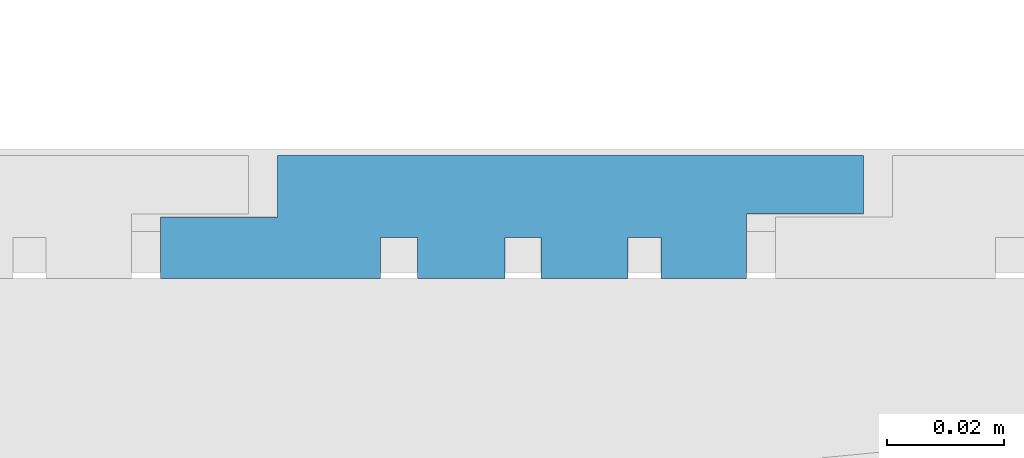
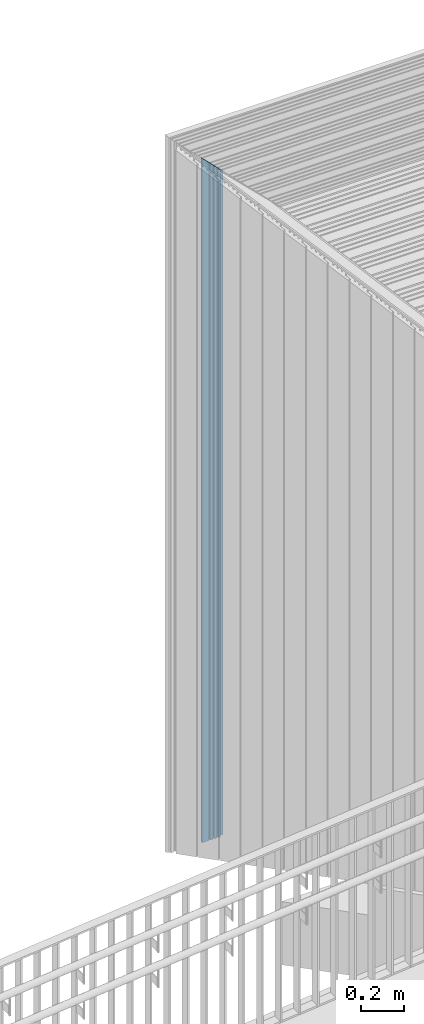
# One storey, part 137 of 418: 1 building element part, 1 element without a shape of its own.
"""IFC2X3 building model written with IfcOpenShell, lengths in millimetres."""

from ifc_helpers import new_model, entity, si_unit, converted_unit, derived_unit, money_unit, direction, frame, origin_with_axes, place, context, subcontext, project, spatial, polyline, outline, extrude, boolean, faceted_brep, material, type_object, element, aggregate, save


model = new_model("IFC2X3")

# Units and contexts
model_context = context("Model", 3, precision=0.01, world=origin_with_axes(), true_north=direction((0.0, 1.0)))
body_context = subcontext(model_context, "Body", "Model", "MODEL_VIEW")
ifc_project = project(units=[si_unit("LENGTHUNIT", "METRE", prefix="MILLI"), si_unit("AREAUNIT", "SQUARE_METRE"), si_unit("VOLUMEUNIT", "CUBIC_METRE"), converted_unit("PLANEANGLEUNIT", "DEGREE", entity("IfcPlaneAngleMeasure", 0.0174532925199), si_unit("PLANEANGLEUNIT", "RADIAN"), dimensions=[0, 0, 0, 0, 0, 0, 0]), si_unit("SOLIDANGLEUNIT", "STERADIAN"), money_unit("EUR"), converted_unit("TIMEUNIT", "Year", entity("IfcTimeMeasure", 31556926.0), si_unit("TIMEUNIT", "SECOND"), dimensions=[0, 0, 1, 0, 0, 0, 0]), si_unit("MASSUNIT", "GRAM", prefix="KILO"), si_unit("THERMODYNAMICTEMPERATUREUNIT", "DEGREE_CELSIUS"), si_unit("LUMINOUSINTENSITYUNIT", "LUMEN"), si_unit("ENERGYUNIT", "JOULE", prefix="MEGA"), derived_unit("THERMALCONDUCTANCEUNIT", [(si_unit("POWERUNIT", "WATT"), 1), (si_unit("LENGTHUNIT", "METRE"), -1), (si_unit("THERMODYNAMICTEMPERATUREUNIT", "KELVIN"), -1)]), derived_unit("SPECIFICHEATCAPACITYUNIT", [(si_unit("ENERGYUNIT", "JOULE"), 1), (si_unit("MASSUNIT", "GRAM", prefix="KILO"), -1), (si_unit("THERMODYNAMICTEMPERATUREUNIT", "KELVIN"), -1)]), derived_unit("MASSDENSITYUNIT", [(si_unit("MASSUNIT", "GRAM", prefix="KILO"), 1), (si_unit("VOLUMEUNIT", "CUBIC_METRE"), -1)])], contexts=[model_context])

# Site, building, storey
site_placement = place(None, origin_with_axes())
site = spatial("IfcSite", under=ifc_project, at=site_placement, Name="Paldiski mnt 245/1, Tallinn, Harjumaa", CompositionType="COMPLEX")
building_placement = place(site_placement, origin_with_axes())
building = spatial("IfcBuilding", under=site, at=building_placement, Name="RKAS Hoone üldnimetus (kasutust iseloomustav) -> IFC Project Manager -> SOLIBRI", CompositionType="ELEMENT")
storey_placement = place(building_placement, origin_with_axes())
storey = spatial("IfcBuildingStorey", under=building, at=storey_placement, Name="Esimene korrus", CompositionType="ELEMENT", Elevation=0.0)

# Proxy, building element part
building_element_proxy_type = type_object("IfcBuildingElementProxyType", Name="Laudis esiprofiil_01 21 x 622", PredefinedType="NOTDEFINED")
proxy_placement = place(storey_placement, frame((-54498.5561962, 39788.252735, 0.0), z_axis=(0.0, 0.0, 1.0), x_axis=(0.0, 1.0, 0.0)))
proxy = element("IfcBuildingElementProxy", 1, at=proxy_placement, inside=storey, type_object=building_element_proxy_type, Name="Varikatus")
ifc_material = material(Name="Laudis 5072 Honka 45 horisontaalne raastas")
building_element_part_placement = place(proxy_placement, origin_with_axes())
building_element_part = element("IfcBuildingElementPart", 2, at=building_element_part_placement, material=ifc_material, Name="Laudis 5072 Honka 45 horisontaalne raastas", context=body_context, shape_type="CSG", body=[
    boolean("DIFFERENCE", boolean("DIFFERENCE", boolean("DIFFERENCE", boolean("DIFFERENCE", boolean("DIFFERENCE", boolean("DIFFERENCE", extrude(outline(polyline([(3.20348192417e-08, -205.971430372), (-10.5000010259, -205.971430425), (-10.5000005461, -185.971429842), (-20.9999998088, -185.971430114), (-21.0000010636, -223.497524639), (-14.0000005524, -223.497525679), (-14.0000003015, -229.860022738), (-20.99999981, -229.860022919), (-20.9999998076, -244.79914009), (-14.0000002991, -244.799139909), (-14.0000007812, -250.926080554), (-21.0000002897, -250.926080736), (-21.0000013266, -265.754573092), (-14.0000008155, -265.754574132), (-14.0000015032, -271.395242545), (-21.0000010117, -271.395242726), (-21.0000007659, -285.971429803), (-10.000001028, -285.971430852), (-10.0000002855, -305.971430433), (-7.63172636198e-07, -305.971430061), (3.20348192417e-08, -205.971430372)])), origin_with_axes(), (0.0, 0.0, 1.0), 4086.15997799), faceted_brep([(-10.0000002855, -515.971430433, 3569.02857075), (-7.63172636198e-07, -515.971430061, 3569.02857112), (-7.63172636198e-07, -515.971430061, 4086.15997799), (-10.0000002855, -515.971430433, 4086.15997799), (3.20312665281e-08, -415.971430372, 3669.02857081), (-10.000001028, -495.971430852, 3589.02857033), (-21.0000007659, -495.971429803, 3589.02857138), (-21.0000010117, -481.395242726, 3603.60475846), (-14.0000015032, -481.395242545, 3603.60475864), (-14.0000008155, -475.754574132, 3609.24542705), (-21.0000013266, -475.754573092, 3609.24542809), (-21.0000002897, -460.926080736, 3624.07392045), (-14.0000007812, -460.926080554, 3624.07392063), (-14.0000002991, -454.799139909, 3630.20086128), (-20.9999998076, -454.79914009, 3630.20086109), (-20.99999981, -439.860022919, 3645.13997827), (-14.0000003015, -439.860022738, 3645.13997845), (-14.0000005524, -433.497525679, 3651.50247551), (-21.0000010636, -433.497524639, 3651.50247655), (-20.9999998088, -395.971430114, 3689.02857107), (-10.5000005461, -395.971429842, 3689.02857134), (-10.5000010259, -415.971430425, 3669.02857076), (3.20312665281e-08, -415.971430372, 4086.15997799), (-10.5000010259, -415.971430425, 4086.15997799), (-10.5000005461, -395.971429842, 4086.15997799), (-20.9999998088, -395.971430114, 4086.15997799), (-21.0000010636, -433.497524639, 4086.15997799), (-14.0000005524, -433.497525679, 4086.15997799), (-14.0000003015, -439.860022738, 4086.15997799), (-20.99999981, -439.860022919, 4086.15997799), (-20.9999998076, -454.79914009, 4086.15997799), (-14.0000002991, -454.799139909, 4086.15997799), (-14.0000007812, -460.926080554, 4086.15997799), (-21.0000002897, -460.926080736, 4086.15997799), (-21.0000013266, -475.754573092, 4086.15997799), (-14.0000008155, -475.754574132, 4086.15997799), (-14.0000015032, -481.395242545, 4086.15997799), (-21.0000010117, -481.395242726, 4086.15997799), (-21.0000007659, -495.971429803, 4086.15997799), (-10.000001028, -495.971430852, 4086.15997799)], [[[0, 1, 2, 3]], [[4, 1, 0, 5, 6, 7, 8, 9, 10, 11, 12, 13, 14, 15, 16, 17, 18, 19, 20, 21]], [[1, 4, 22, 2]], [[2, 22, 23, 24, 25, 26, 27, 28, 29, 30, 31, 32, 33, 34, 35, 36, 37, 38, 39, 3]], [[5, 0, 3, 39]], [[6, 5, 39, 38]], [[7, 6, 38, 37]], [[8, 7, 37, 36]], [[9, 8, 36, 35]], [[10, 9, 35, 34]], [[11, 10, 34, 33]], [[12, 11, 33, 32]], [[13, 12, 32, 31]], [[14, 13, 31, 30]], [[15, 14, 30, 29]], [[16, 15, 29, 28]], [[17, 16, 28, 27]], [[18, 17, 27, 26]], [[19, 18, 26, 25]], [[20, 19, 25, 24]], [[21, 20, 24, 23]], [[4, 21, 23, 22]]])), faceted_brep([(-10.0000002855, -620.971430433, 3464.02857075), (-7.63172636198e-07, -620.971430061, 3464.02857112), (-7.63172636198e-07, -620.971430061, 4086.15997799), (-10.0000002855, -620.971430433, 4086.15997799), (3.20312665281e-08, -520.971430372, 3564.02857081), (-10.000001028, -600.971430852, 3484.02857033), (-21.0000007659, -600.971429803, 3484.02857138), (-21.0000010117, -586.395242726, 3498.60475846), (-14.0000015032, -586.395242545, 3498.60475864), (-14.0000008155, -580.754574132, 3504.24542705), (-21.0000013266, -580.754573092, 3504.24542809), (-21.0000002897, -565.926080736, 3519.07392045), (-14.0000007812, -565.926080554, 3519.07392063), (-14.0000002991, -559.799139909, 3525.20086128), (-20.9999998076, -559.79914009, 3525.20086109), (-20.99999981, -544.860022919, 3540.13997827), (-14.0000003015, -544.860022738, 3540.13997845), (-14.0000005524, -538.497525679, 3546.50247551), (-21.0000010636, -538.497524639, 3546.50247655), (-20.9999998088, -500.971430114, 3584.02857107), (-10.5000005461, -500.971429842, 3584.02857134), (-10.5000010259, -520.971430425, 3564.02857076), (3.20312665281e-08, -520.971430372, 4086.15997799), (-10.5000010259, -520.971430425, 4086.15997799), (-10.5000005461, -500.971429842, 4086.15997799), (-20.9999998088, -500.971430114, 4086.15997799), (-21.0000010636, -538.497524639, 4086.15997799), (-14.0000005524, -538.497525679, 4086.15997799), (-14.0000003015, -544.860022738, 4086.15997799), (-20.99999981, -544.860022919, 4086.15997799), (-20.9999998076, -559.79914009, 4086.15997799), (-14.0000002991, -559.799139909, 4086.15997799), (-14.0000007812, -565.926080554, 4086.15997799), (-21.0000002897, -565.926080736, 4086.15997799), (-21.0000013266, -580.754573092, 4086.15997799), (-14.0000008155, -580.754574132, 4086.15997799), (-14.0000015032, -586.395242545, 4086.15997799), (-21.0000010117, -586.395242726, 4086.15997799), (-21.0000007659, -600.971429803, 4086.15997799), (-10.000001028, -600.971430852, 4086.15997799)], [[[0, 1, 2, 3]], [[4, 1, 0, 5, 6, 7, 8, 9, 10, 11, 12, 13, 14, 15, 16, 17, 18, 19, 20, 21]], [[1, 4, 22, 2]], [[2, 22, 23, 24, 25, 26, 27, 28, 29, 30, 31, 32, 33, 34, 35, 36, 37, 38, 39, 3]], [[5, 0, 3, 39]], [[6, 5, 39, 38]], [[7, 6, 38, 37]], [[8, 7, 37, 36]], [[9, 8, 36, 35]], [[10, 9, 35, 34]], [[11, 10, 34, 33]], [[12, 11, 33, 32]], [[13, 12, 32, 31]], [[14, 13, 31, 30]], [[15, 14, 30, 29]], [[16, 15, 29, 28]], [[17, 16, 28, 27]], [[18, 17, 27, 26]], [[19, 18, 26, 25]], [[20, 19, 25, 24]], [[21, 20, 24, 23]], [[4, 21, 23, 22]]])), faceted_brep([(-10.0000002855, -305.971430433, 3779.02857075), (-7.63179741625e-07, -305.971430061, 3779.02857112), (-7.63179741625e-07, -305.971430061, 4086.15997799), (-10.0000002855, -305.971430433, 4086.15997799), (3.20312665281e-08, -205.971430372, 3879.02857081), (-10.000001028, -285.971430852, 3799.02857033), (-21.0000007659, -285.971429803, 3799.02857138), (-21.0000010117, -271.395242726, 3813.60475846), (-14.0000015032, -271.395242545, 3813.60475864), (-14.0000008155, -265.754574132, 3819.24542705), (-21.0000013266, -265.754573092, 3819.24542809), (-21.0000002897, -250.926080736, 3834.07392045), (-14.0000007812, -250.926080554, 3834.07392063), (-14.0000002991, -244.799139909, 3840.20086128), (-20.9999998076, -244.79914009, 3840.20086109), (-20.99999981, -229.860022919, 3855.13997827), (-14.0000003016, -229.860022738, 3855.13997845), (-14.0000005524, -223.497525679, 3861.50247551), (-21.0000010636, -223.497524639, 3861.50247655), (-20.9999998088, -185.971430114, 3899.02857107), (-10.5000005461, -185.971429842, 3899.02857134), (-10.5000010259, -205.971430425, 3879.02857076), (3.20312665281e-08, -205.971430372, 4086.15997799), (-10.5000010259, -205.971430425, 4086.15997799), (-10.5000005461, -185.971429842, 4086.15997799), (-20.9999998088, -185.971430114, 4086.15997799), (-21.0000010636, -223.497524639, 4086.15997799), (-14.0000005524, -223.497525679, 4086.15997799), (-14.0000003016, -229.860022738, 4086.15997799), (-20.99999981, -229.860022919, 4086.15997799), (-20.9999998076, -244.79914009, 4086.15997799), (-14.0000002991, -244.799139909, 4086.15997799), (-14.0000007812, -250.926080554, 4086.15997799), (-21.0000002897, -250.926080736, 4086.15997799), (-21.0000013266, -265.754573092, 4086.15997799), (-14.0000008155, -265.754574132, 4086.15997799), (-14.0000015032, -271.395242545, 4086.15997799), (-21.0000010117, -271.395242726, 4086.15997799), (-21.0000007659, -285.971429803, 4086.15997799), (-10.000001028, -285.971430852, 4086.15997799)], [[[0, 1, 2, 3]], [[4, 1, 0, 5, 6, 7, 8, 9, 10, 11, 12, 13, 14, 15, 16, 17, 18, 19, 20, 21]], [[1, 4, 22, 2]], [[2, 22, 23, 24, 25, 26, 27, 28, 29, 30, 31, 32, 33, 34, 35, 36, 37, 38, 39, 3]], [[5, 0, 3, 39]], [[6, 5, 39, 38]], [[7, 6, 38, 37]], [[8, 7, 37, 36]], [[9, 8, 36, 35]], [[10, 9, 35, 34]], [[11, 10, 34, 33]], [[12, 11, 33, 32]], [[13, 12, 32, 31]], [[14, 13, 31, 30]], [[15, 14, 30, 29]], [[16, 15, 29, 28]], [[17, 16, 28, 27]], [[18, 17, 27, 26]], [[19, 18, 26, 25]], [[20, 19, 25, 24]], [[21, 20, 24, 23]], [[4, 21, 23, 22]]])), faceted_brep([(-10.0000002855, -410.971430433, 3674.02857075), (-7.63172636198e-07, -410.971430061, 3674.02857112), (-7.63172636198e-07, -410.971430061, 4086.15997799), (-10.0000002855, -410.971430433, 4086.15997799), (3.20312665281e-08, -310.971430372, 3774.02857081), (-10.000001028, -390.971430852, 3694.02857033), (-21.0000007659, -390.971429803, 3694.02857138), (-21.0000010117, -376.395242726, 3708.60475846), (-14.0000015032, -376.395242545, 3708.60475864), (-14.0000008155, -370.754574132, 3714.24542705), (-21.0000013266, -370.754573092, 3714.24542809), (-21.0000002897, -355.926080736, 3729.07392045), (-14.0000007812, -355.926080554, 3729.07392063), (-14.0000002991, -349.799139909, 3735.20086128), (-20.9999998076, -349.79914009, 3735.20086109), (-20.99999981, -334.860022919, 3750.13997827), (-14.0000003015, -334.860022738, 3750.13997845), (-14.0000005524, -328.497525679, 3756.50247551), (-21.0000010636, -328.497524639, 3756.50247655), (-20.9999998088, -290.971430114, 3794.02857107), (-10.5000005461, -290.971429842, 3794.02857134), (-10.5000010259, -310.971430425, 3774.02857076), (3.20312665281e-08, -310.971430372, 4086.15997799), (-10.5000010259, -310.971430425, 4086.15997799), (-10.5000005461, -290.971429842, 4086.15997799), (-20.9999998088, -290.971430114, 4086.15997799), (-21.0000010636, -328.497524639, 4086.15997799), (-14.0000005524, -328.497525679, 4086.15997799), (-14.0000003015, -334.860022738, 4086.15997799), (-20.99999981, -334.860022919, 4086.15997799), (-20.9999998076, -349.79914009, 4086.15997799), (-14.0000002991, -349.799139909, 4086.15997799), (-14.0000007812, -355.926080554, 4086.15997799), (-21.0000002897, -355.926080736, 4086.15997799), (-21.0000013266, -370.754573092, 4086.15997799), (-14.0000008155, -370.754574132, 4086.15997799), (-14.0000015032, -376.395242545, 4086.15997799), (-21.0000010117, -376.395242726, 4086.15997799), (-21.0000007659, -390.971429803, 4086.15997799), (-10.000001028, -390.971430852, 4086.15997799)], [[[0, 1, 2, 3]], [[4, 1, 0, 5, 6, 7, 8, 9, 10, 11, 12, 13, 14, 15, 16, 17, 18, 19, 20, 21]], [[1, 4, 22, 2]], [[2, 22, 23, 24, 25, 26, 27, 28, 29, 30, 31, 32, 33, 34, 35, 36, 37, 38, 39, 3]], [[5, 0, 3, 39]], [[6, 5, 39, 38]], [[7, 6, 38, 37]], [[8, 7, 37, 36]], [[9, 8, 36, 35]], [[10, 9, 35, 34]], [[11, 10, 34, 33]], [[12, 11, 33, 32]], [[13, 12, 32, 31]], [[14, 13, 31, 30]], [[15, 14, 30, 29]], [[16, 15, 29, 28]], [[17, 16, 28, 27]], [[18, 17, 27, 26]], [[19, 18, 26, 25]], [[20, 19, 25, 24]], [[21, 20, 24, 23]], [[4, 21, 23, 22]]])), faceted_brep([(-10.0000000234, -95.9714304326, 3989.02857075), (-1.4387921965e-06, -95.9714304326, 3989.02857075), (-1.4387921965e-06, -95.9714304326, 4086.15997799), (-10.0000000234, -95.9714304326, 4086.15997799), (8.28492829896e-09, 1.13997680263, 4086.13997799), (-10.0000014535, -75.9714304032, 4009.02857078), (-21.0000013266, -75.9714304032, 4009.02857078), (-21.0000013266, -61.3952431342, 4023.60475805), (-14.0000008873, -61.3952431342, 4023.60475805), (-14.0000008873, -55.7545748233, 4029.24542636), (-21.0000013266, -55.7545733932, 4029.24542779), (-20.9999998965, -40.9260801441, 4044.07392104), (-14.0000008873, -40.9260801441, 4044.07392104), (-14.0000008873, -34.7991393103, 4050.20086187), (-20.9999998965, -34.7991407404, 4050.20086044), (-20.9999998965, -19.8600231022, 4065.13997808), (-14.0000008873, -19.8600231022, 4065.13997808), (-14.0000008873, -12.860024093, 4072.13997709), (8.28492829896e-09, 1.13997680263, 4086.15997799), (-20.9999998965, -40.9260801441, 4086.15997799), (-21.0000013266, -55.7545733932, 4086.15997799), (-14.0000008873, -55.7545748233, 4086.15997799), (-14.0000008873, -61.3952431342, 4086.15997799), (-21.0000013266, -61.3952431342, 4086.15997799), (-21.0000013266, -75.9714304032, 4086.15997799), (-10.0000014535, -75.9714304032, 4086.15997799), (-14.0000008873, -12.860024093, 4086.15997799), (-14.0000008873, -19.8600231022, 4086.15997799), (-20.9999998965, -19.8600231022, 4086.15997799), (-20.9999998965, -34.7991407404, 4086.15997799), (-14.0000008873, -34.7991393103, 4086.15997799), (-14.0000008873, -40.9260801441, 4086.15997799)], [[[0, 1, 2, 3]], [[4, 1, 0, 5, 6, 7, 8, 9, 10, 11, 12, 13, 14, 15, 16, 17]], [[1, 4, 18, 2]], [[19, 20, 21, 22, 23, 24, 25, 3, 2, 18, 26, 27, 28, 29, 30, 31]], [[5, 0, 3, 25]], [[6, 5, 25, 24]], [[7, 6, 24, 23]], [[8, 7, 23, 22]], [[9, 8, 22, 21]], [[10, 9, 21, 20]], [[11, 10, 20, 19]], [[12, 11, 19, 31]], [[13, 12, 31, 30]], [[14, 13, 30, 29]], [[15, 14, 29, 28]], [[16, 15, 28, 27]], [[17, 16, 27, 26]], [[4, 17, 26, 18]]])), faceted_brep([(-10.0000002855, -200.971430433, 3884.02857075), (-7.63179741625e-07, -200.971430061, 3884.02857112), (-7.63179741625e-07, -200.971430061, 4086.15997799), (-10.0000002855, -200.971430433, 4086.15997799), (3.20312665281e-08, -100.971430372, 3984.02857081), (-10.000001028, -180.971430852, 3904.02857033), (-21.0000007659, -180.971429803, 3904.02857138), (-21.0000010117, -166.395242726, 3918.60475846), (-14.0000015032, -166.395242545, 3918.60475864), (-14.0000008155, -160.754574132, 3924.24542705), (-21.0000013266, -160.754573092, 3924.24542809), (-21.0000002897, -145.926080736, 3939.07392045), (-14.0000007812, -145.926080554, 3939.07392063), (-14.0000002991, -139.799139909, 3945.20086128), (-20.9999998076, -139.79914009, 3945.20086109), (-20.99999981, -124.860022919, 3960.13997827), (-14.0000003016, -124.860022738, 3960.13997845), (-14.0000005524, -118.497525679, 3966.50247551), (-21.0000010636, -118.497524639, 3966.50247655), (-20.9999998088, -80.9714301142, 4004.02857107), (-10.5000005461, -80.9714298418, 4004.02857134), (-10.5000010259, -100.971430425, 3984.02857076), (3.20312665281e-08, -100.971430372, 4086.15997799), (-10.5000010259, -100.971430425, 4086.15997799), (-10.5000005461, -80.9714298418, 4086.15997799), (-20.9999998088, -80.9714301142, 4086.15997799), (-21.0000010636, -118.497524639, 4086.15997799), (-14.0000005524, -118.497525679, 4086.15997799), (-14.0000003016, -124.860022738, 4086.15997799), (-20.99999981, -124.860022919, 4086.15997799), (-20.9999998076, -139.79914009, 4086.15997799), (-14.0000002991, -139.799139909, 4086.15997799), (-14.0000007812, -145.926080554, 4086.15997799), (-21.0000002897, -145.926080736, 4086.15997799), (-21.0000013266, -160.754573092, 4086.15997799), (-14.0000008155, -160.754574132, 4086.15997799), (-14.0000015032, -166.395242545, 4086.15997799), (-21.0000010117, -166.395242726, 4086.15997799), (-21.0000007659, -180.971429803, 4086.15997799), (-10.000001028, -180.971430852, 4086.15997799)], [[[0, 1, 2, 3]], [[4, 1, 0, 5, 6, 7, 8, 9, 10, 11, 12, 13, 14, 15, 16, 17, 18, 19, 20, 21]], [[1, 4, 22, 2]], [[2, 22, 23, 24, 25, 26, 27, 28, 29, 30, 31, 32, 33, 34, 35, 36, 37, 38, 39, 3]], [[5, 0, 3, 39]], [[6, 5, 39, 38]], [[7, 6, 38, 37]], [[8, 7, 37, 36]], [[9, 8, 36, 35]], [[10, 9, 35, 34]], [[11, 10, 34, 33]], [[12, 11, 33, 32]], [[13, 12, 32, 31]], [[14, 13, 31, 30]], [[15, 14, 30, 29]], [[16, 15, 29, 28]], [[17, 16, 28, 27]], [[18, 17, 27, 26]], [[19, 18, 26, 25]], [[20, 19, 25, 24]], [[21, 20, 24, 23]], [[4, 21, 23, 22]]])),
])
aggregate(proxy, [building_element_part])

save(model, "model.ifc")
